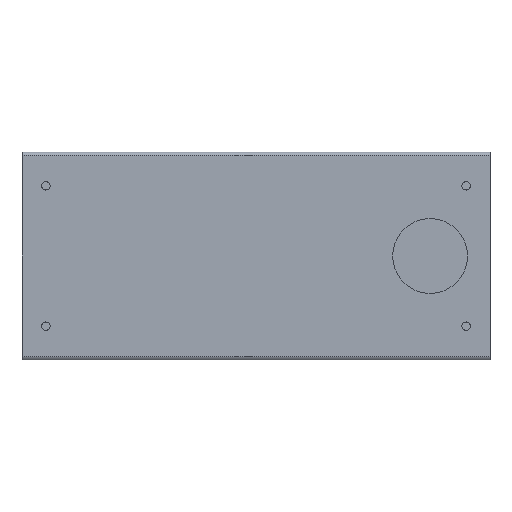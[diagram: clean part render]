
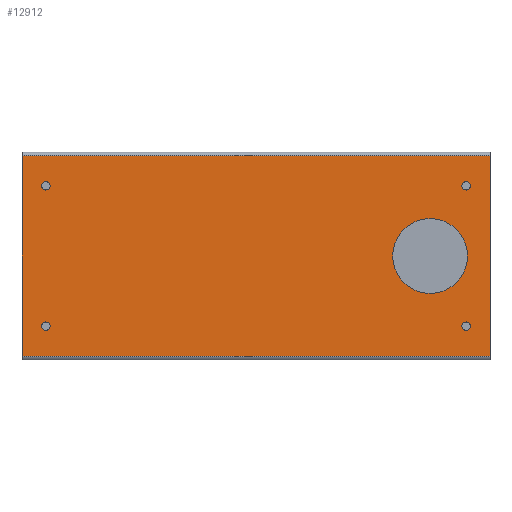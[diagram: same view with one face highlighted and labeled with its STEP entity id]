
A CAD part, front view. The second image highlights one B-rep face of the part: STEP entity #12912.
In plain terms, the highlighted planar face has unit normal (0, -1, 0) as drawn and (0, 1, 0) by its records, which use the part's own axes.
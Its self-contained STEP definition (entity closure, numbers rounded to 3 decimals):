
#11874=DIRECTION('',(-1.,0.,0.));
#11875=VECTOR('',#11874,107.);
#11876=CARTESIAN_POINT('',(53.5,109.,-125.));
#11877=LINE('',#11876,#11875);
#11956=DIRECTION('',(0.,0.,-1.));
#11957=VECTOR('',#11956,250.);
#11958=CARTESIAN_POINT('',(53.5,109.,125.));
#11959=LINE('',#11958,#11957);
#11960=DIRECTION('',(0.,0.,-1.));
#11961=VECTOR('',#11960,250.);
#11962=CARTESIAN_POINT('',(-53.5,109.,125.));
#11963=LINE('',#11962,#11961);
#11964=CARTESIAN_POINT('',(37.5,109.,112.25));
#11965=DIRECTION('',(0.,1.,0.));
#11966=DIRECTION('',(-1.,0.,0.));
#11967=AXIS2_PLACEMENT_3D('',#11964,#11965,#11966);
#11969=CARTESIAN_POINT('',(37.5,109.,112.25));
#11970=DIRECTION('',(0.,1.,0.));
#11971=DIRECTION('',(1.,0.,0.));
#11972=AXIS2_PLACEMENT_3D('',#11969,#11970,#11971);
#11974=CARTESIAN_POINT('',(0.,109.,93.));
#11975=DIRECTION('',(0.,1.,0.));
#11976=DIRECTION('',(-1.,0.,0.));
#11977=AXIS2_PLACEMENT_3D('',#11974,#11975,#11976);
#11979=CARTESIAN_POINT('',(0.,109.,93.));
#11980=DIRECTION('',(0.,1.,0.));
#11981=DIRECTION('',(1.,0.,0.));
#11982=AXIS2_PLACEMENT_3D('',#11979,#11980,#11981);
#11984=CARTESIAN_POINT('',(-37.5,109.,112.25));
#11985=DIRECTION('',(0.,1.,0.));
#11986=DIRECTION('',(-1.,0.,0.));
#11987=AXIS2_PLACEMENT_3D('',#11984,#11985,#11986);
#11989=CARTESIAN_POINT('',(-37.5,109.,112.25));
#11990=DIRECTION('',(0.,1.,0.));
#11991=DIRECTION('',(1.,0.,0.));
#11992=AXIS2_PLACEMENT_3D('',#11989,#11990,#11991);
#11994=CARTESIAN_POINT('',(37.5,109.,-112.25));
#11995=DIRECTION('',(0.,1.,0.));
#11996=DIRECTION('',(-1.,0.,0.));
#11997=AXIS2_PLACEMENT_3D('',#11994,#11995,#11996);
#11999=CARTESIAN_POINT('',(37.5,109.,-112.25));
#12000=DIRECTION('',(0.,1.,0.));
#12001=DIRECTION('',(1.,0.,0.));
#12002=AXIS2_PLACEMENT_3D('',#11999,#12000,#12001);
#12004=CARTESIAN_POINT('',(-37.5,109.,-112.25));
#12005=DIRECTION('',(0.,1.,0.));
#12006=DIRECTION('',(-1.,0.,0.));
#12007=AXIS2_PLACEMENT_3D('',#12004,#12005,#12006);
#12009=CARTESIAN_POINT('',(-37.5,109.,-112.25));
#12010=DIRECTION('',(0.,1.,0.));
#12011=DIRECTION('',(1.,0.,0.));
#12012=AXIS2_PLACEMENT_3D('',#12009,#12010,#12011);
#12061=DIRECTION('',(-1.,0.,0.));
#12062=VECTOR('',#12061,107.);
#12063=CARTESIAN_POINT('',(53.5,109.,125.));
#12064=LINE('',#12063,#12062);
#12528=CARTESIAN_POINT('',(53.5,109.,-125.));
#12530=VERTEX_POINT('',#12528);
#12534=CARTESIAN_POINT('',(53.5,109.,125.));
#12535=VERTEX_POINT('',#12534);
#12545=CARTESIAN_POINT('',(-53.5,109.,-125.));
#12547=VERTEX_POINT('',#12545);
#12548=CARTESIAN_POINT('',(-53.5,109.,125.));
#12549=VERTEX_POINT('',#12548);
#12604=CARTESIAN_POINT('',(35.25,109.,112.25));
#12605=CARTESIAN_POINT('',(39.75,109.,112.25));
#12606=VERTEX_POINT('',#12604);
#12607=VERTEX_POINT('',#12605);
#12608=CARTESIAN_POINT('',(-20.,109.,93.));
#12609=CARTESIAN_POINT('',(20.,109.,93.));
#12610=VERTEX_POINT('',#12608);
#12611=VERTEX_POINT('',#12609);
#12612=CARTESIAN_POINT('',(-39.75,109.,112.25));
#12613=CARTESIAN_POINT('',(-35.25,109.,112.25));
#12614=VERTEX_POINT('',#12612);
#12615=VERTEX_POINT('',#12613);
#12616=CARTESIAN_POINT('',(35.25,109.,-112.25));
#12617=CARTESIAN_POINT('',(39.75,109.,-112.25));
#12618=VERTEX_POINT('',#12616);
#12619=VERTEX_POINT('',#12617);
#12620=CARTESIAN_POINT('',(-39.75,109.,-112.25));
#12621=CARTESIAN_POINT('',(-35.25,109.,-112.25));
#12622=VERTEX_POINT('',#12620);
#12623=VERTEX_POINT('',#12621);
#12869=CARTESIAN_POINT('',(55.5,109.,-125.));
#12870=DIRECTION('',(0.,1.,0.));
#12871=DIRECTION('',(-1.,0.,0.));
#12872=AXIS2_PLACEMENT_3D('',#12869,#12870,#12871);
#12873=PLANE('',#12872);
#12875=ORIENTED_EDGE('',*,*,#12874,.F.);
#12877=ORIENTED_EDGE('',*,*,#12876,.T.);
#12878=ORIENTED_EDGE('',*,*,#12861,.T.);
#12879=ORIENTED_EDGE('',*,*,#12731,.F.);
#12880=EDGE_LOOP('',(#12875,#12877,#12878,#12879));
#12881=FACE_OUTER_BOUND('',#12880,.F.);
#12883=ORIENTED_EDGE('',*,*,#12882,.T.);
#12885=ORIENTED_EDGE('',*,*,#12884,.T.);
#12886=EDGE_LOOP('',(#12883,#12885));
#12887=FACE_BOUND('',#12886,.F.);
#12889=ORIENTED_EDGE('',*,*,#12888,.T.);
#12891=ORIENTED_EDGE('',*,*,#12890,.T.);
#12892=EDGE_LOOP('',(#12889,#12891));
#12893=FACE_BOUND('',#12892,.F.);
#12895=ORIENTED_EDGE('',*,*,#12894,.T.);
#12897=ORIENTED_EDGE('',*,*,#12896,.T.);
#12898=EDGE_LOOP('',(#12895,#12897));
#12899=FACE_BOUND('',#12898,.F.);
#12901=ORIENTED_EDGE('',*,*,#12900,.T.);
#12903=ORIENTED_EDGE('',*,*,#12902,.T.);
#12904=EDGE_LOOP('',(#12901,#12903));
#12905=FACE_BOUND('',#12904,.F.);
#12907=ORIENTED_EDGE('',*,*,#12906,.T.);
#12909=ORIENTED_EDGE('',*,*,#12908,.T.);
#12910=EDGE_LOOP('',(#12907,#12909));
#12911=FACE_BOUND('',#12910,.F.);
#12912=ADVANCED_FACE('',(#12881,#12887,#12893,#12899,#12905,#12911),#12873,.T.);
#11968=CIRCLE('',#11967,2.25);
#11973=CIRCLE('',#11972,2.25);
#11978=CIRCLE('',#11977,20.);
#11983=CIRCLE('',#11982,20.);
#11988=CIRCLE('',#11987,2.25);
#11993=CIRCLE('',#11992,2.25);
#11998=CIRCLE('',#11997,2.25);
#12003=CIRCLE('',#12002,2.25);
#12008=CIRCLE('',#12007,2.25);
#12013=CIRCLE('',#12012,2.25);
#12731=EDGE_CURVE('',#12530,#12547,#11877,.T.);
#12861=EDGE_CURVE('',#12549,#12547,#11963,.T.);
#12874=EDGE_CURVE('',#12535,#12530,#11959,.T.);
#12876=EDGE_CURVE('',#12535,#12549,#12064,.T.);
#12882=EDGE_CURVE('',#12606,#12607,#11968,.T.);
#12884=EDGE_CURVE('',#12607,#12606,#11973,.T.);
#12888=EDGE_CURVE('',#12610,#12611,#11978,.T.);
#12890=EDGE_CURVE('',#12611,#12610,#11983,.T.);
#12894=EDGE_CURVE('',#12614,#12615,#11988,.T.);
#12896=EDGE_CURVE('',#12615,#12614,#11993,.T.);
#12900=EDGE_CURVE('',#12618,#12619,#11998,.T.);
#12902=EDGE_CURVE('',#12619,#12618,#12003,.T.);
#12906=EDGE_CURVE('',#12622,#12623,#12008,.T.);
#12908=EDGE_CURVE('',#12623,#12622,#12013,.T.);
